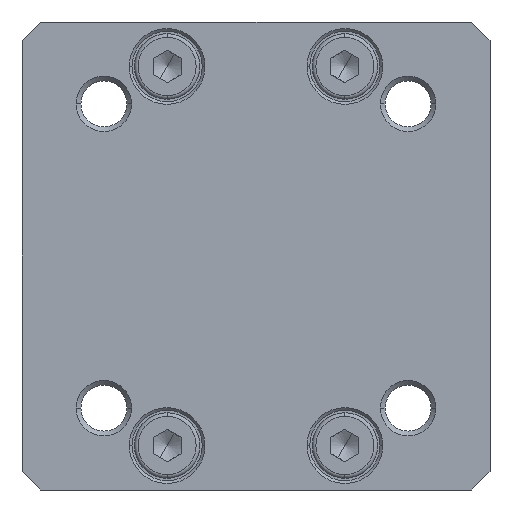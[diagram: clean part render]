
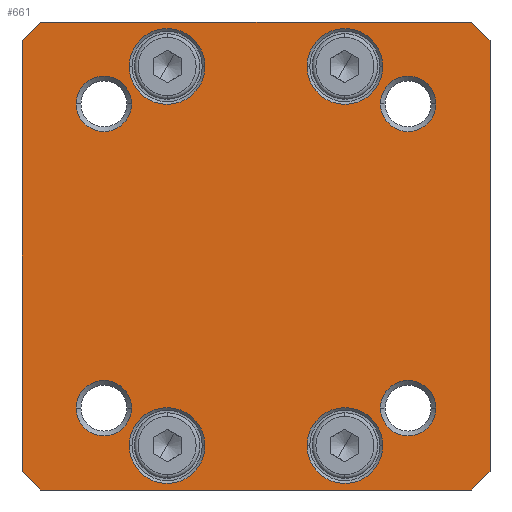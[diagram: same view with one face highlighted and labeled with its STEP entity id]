
A CAD part, front view. The second image highlights one B-rep face of the part: STEP entity #661.
In plain terms, the highlighted planar face has unit normal (0, -1, 0).
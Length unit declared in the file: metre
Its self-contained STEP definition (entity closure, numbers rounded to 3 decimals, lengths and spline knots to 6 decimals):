
#661=ADVANCED_FACE('',(#1272,#1273,#1274,#1275,#1276,#1277,#1278,#1279,#1280),#1281,.F.);
#1272=FACE_OUTER_BOUND('',#2039,.T.);
#1273=FACE_BOUND('',#2040,.T.);
#1274=FACE_BOUND('',#2041,.T.);
#1275=FACE_BOUND('',#2042,.T.);
#1276=FACE_BOUND('',#2043,.T.);
#1277=FACE_BOUND('',#2044,.T.);
#1278=FACE_BOUND('',#2045,.T.);
#1279=FACE_BOUND('',#2046,.T.);
#1280=FACE_BOUND('',#2047,.T.);
#1281=PLANE('',#2048);
#2039=EDGE_LOOP('',(#4085,#4086,#4087,#4088,#4089,#4090,#4091,#4092));
#2040=EDGE_LOOP('',(#4093,#4094));
#2041=EDGE_LOOP('',(#4095,#4096));
#2042=EDGE_LOOP('',(#4097,#4098));
#2043=EDGE_LOOP('',(#4099,#4100));
#2044=EDGE_LOOP('',(#4101,#4102));
#2045=EDGE_LOOP('',(#4103,#4104));
#2046=EDGE_LOOP('',(#4105,#4106));
#2047=EDGE_LOOP('',(#4107,#4108));
#2048=AXIS2_PLACEMENT_3D('',#4109,#4110,#4111);
#4085=ORIENTED_EDGE('',*,*,#5647,.F.);
#4086=ORIENTED_EDGE('',*,*,#5648,.F.);
#4087=ORIENTED_EDGE('',*,*,#5649,.F.);
#4088=ORIENTED_EDGE('',*,*,#5650,.F.);
#4089=ORIENTED_EDGE('',*,*,#5651,.F.);
#4090=ORIENTED_EDGE('',*,*,#5652,.F.);
#4091=ORIENTED_EDGE('',*,*,#5653,.F.);
#4092=ORIENTED_EDGE('',*,*,#5654,.F.);
#4093=ORIENTED_EDGE('',*,*,#5655,.F.);
#4094=ORIENTED_EDGE('',*,*,#5497,.F.);
#4095=ORIENTED_EDGE('',*,*,#5656,.F.);
#4096=ORIENTED_EDGE('',*,*,#5489,.F.);
#4097=ORIENTED_EDGE('',*,*,#5657,.F.);
#4098=ORIENTED_EDGE('',*,*,#5477,.F.);
#4099=ORIENTED_EDGE('',*,*,#5658,.F.);
#4100=ORIENTED_EDGE('',*,*,#5461,.F.);
#4101=ORIENTED_EDGE('',*,*,#5659,.F.);
#4102=ORIENTED_EDGE('',*,*,#5469,.F.);
#4103=ORIENTED_EDGE('',*,*,#5660,.F.);
#4104=ORIENTED_EDGE('',*,*,#5485,.F.);
#4105=ORIENTED_EDGE('',*,*,#5661,.F.);
#4106=ORIENTED_EDGE('',*,*,#5493,.F.);
#4107=ORIENTED_EDGE('',*,*,#5662,.F.);
#4108=ORIENTED_EDGE('',*,*,#5501,.F.);
#4109=CARTESIAN_POINT('',(0.,-0.0075,0.));
#4110=DIRECTION('',(-0.0,1.0,0.0));
#4111=DIRECTION('',(1.0,0.0,0.0));
#5461=EDGE_CURVE('',#6678,#6680,#6681,.T.);
#5469=EDGE_CURVE('',#6692,#6694,#6695,.T.);
#5477=EDGE_CURVE('',#6706,#6708,#6709,.T.);
#5485=EDGE_CURVE('',#6720,#6722,#6723,.T.);
#5489=EDGE_CURVE('',#6726,#6729,#6730,.T.);
#5493=EDGE_CURVE('',#6734,#6737,#6738,.T.);
#5497=EDGE_CURVE('',#6742,#6745,#6746,.T.);
#5501=EDGE_CURVE('',#6750,#6753,#6754,.T.);
#5647=EDGE_CURVE('',#7015,#7016,#7017,.T.);
#5648=EDGE_CURVE('',#7018,#7015,#7019,.T.);
#5649=EDGE_CURVE('',#7020,#7018,#7021,.T.);
#5650=EDGE_CURVE('',#7022,#7020,#7023,.T.);
#5651=EDGE_CURVE('',#7024,#7022,#7025,.T.);
#5652=EDGE_CURVE('',#7026,#7024,#7027,.T.);
#5653=EDGE_CURVE('',#7028,#7026,#7029,.T.);
#5654=EDGE_CURVE('',#7016,#7028,#7030,.T.);
#5655=EDGE_CURVE('',#6745,#6742,#7031,.T.);
#5656=EDGE_CURVE('',#6729,#6726,#7032,.T.);
#5657=EDGE_CURVE('',#6708,#6706,#7033,.T.);
#5658=EDGE_CURVE('',#6680,#6678,#7034,.T.);
#5659=EDGE_CURVE('',#6694,#6692,#7035,.T.);
#5660=EDGE_CURVE('',#6722,#6720,#7036,.T.);
#5661=EDGE_CURVE('',#6737,#6734,#7037,.T.);
#5662=EDGE_CURVE('',#6753,#6750,#7038,.T.);
#6678=VERTEX_POINT('',#8738);
#6680=VERTEX_POINT('',#8741);
#6681=CIRCLE('',#8742,0.00405);
#6692=VERTEX_POINT('',#8756);
#6694=VERTEX_POINT('',#8759);
#6695=CIRCLE('',#8760,0.00405);
#6706=VERTEX_POINT('',#8774);
#6708=VERTEX_POINT('',#8777);
#6709=CIRCLE('',#8778,0.00405);
#6720=VERTEX_POINT('',#8792);
#6722=VERTEX_POINT('',#8795);
#6723=CIRCLE('',#8796,0.00405);
#6726=VERTEX_POINT('',#8800);
#6729=VERTEX_POINT('',#8804);
#6730=CIRCLE('',#8805,0.002959);
#6734=VERTEX_POINT('',#8810);
#6737=VERTEX_POINT('',#8814);
#6738=CIRCLE('',#8815,0.002959);
#6742=VERTEX_POINT('',#8820);
#6745=VERTEX_POINT('',#8824);
#6746=CIRCLE('',#8825,0.002959);
#6750=VERTEX_POINT('',#8830);
#6753=VERTEX_POINT('',#8834);
#6754=CIRCLE('',#8835,0.002959);
#7015=VERTEX_POINT('',#9422);
#7016=VERTEX_POINT('',#9423);
#7017=LINE('',#9424,#9425);
#7018=VERTEX_POINT('',#9426);
#7019=LINE('',#9427,#9428);
#7020=VERTEX_POINT('',#9429);
#7021=LINE('',#9430,#9431);
#7022=VERTEX_POINT('',#9432);
#7023=LINE('',#9433,#9434);
#7024=VERTEX_POINT('',#9435);
#7025=LINE('',#9436,#9437);
#7026=VERTEX_POINT('',#9438);
#7027=LINE('',#9439,#9440);
#7028=VERTEX_POINT('',#9441);
#7029=LINE('',#9442,#9443);
#7030=LINE('',#9444,#9445);
#7031=CIRCLE('',#9446,0.002959);
#7032=CIRCLE('',#9447,0.002959);
#7033=CIRCLE('',#9448,0.00405);
#7034=CIRCLE('',#9449,0.00405);
#7035=CIRCLE('',#9450,0.00405);
#7036=CIRCLE('',#9451,0.00405);
#7037=CIRCLE('',#9452,0.002959);
#7038=CIRCLE('',#9453,0.002959);
#8738=CARTESIAN_POINT('',(-0.01355,-0.0075,0.02025));
#8741=CARTESIAN_POINT('',(-0.00545,-0.0075,0.02025));
#8742=AXIS2_PLACEMENT_3D('',#10762,#10763,#10764);
#8756=CARTESIAN_POINT('',(0.00545,-0.0075,0.02025));
#8759=CARTESIAN_POINT('',(0.01355,-0.0075,0.02025));
#8760=AXIS2_PLACEMENT_3D('',#10778,#10779,#10780);
#8774=CARTESIAN_POINT('',(0.00545,-0.0075,-0.02025));
#8777=CARTESIAN_POINT('',(0.01355,-0.0075,-0.02025));
#8778=AXIS2_PLACEMENT_3D('',#10794,#10795,#10796);
#8792=CARTESIAN_POINT('',(-0.01355,-0.0075,-0.02025));
#8795=CARTESIAN_POINT('',(-0.00545,-0.0075,-0.02025));
#8796=AXIS2_PLACEMENT_3D('',#10810,#10811,#10812);
#8800=CARTESIAN_POINT('',(0.013292,-0.0075,-0.01625));
#8804=CARTESIAN_POINT('',(0.019209,-0.0075,-0.01625));
#8805=AXIS2_PLACEMENT_3D('',#10818,#10819,#10820);
#8810=CARTESIAN_POINT('',(-0.019209,-0.0075,-0.01625));
#8814=CARTESIAN_POINT('',(-0.013292,-0.0075,-0.01625));
#8815=AXIS2_PLACEMENT_3D('',#10826,#10827,#10828);
#8820=CARTESIAN_POINT('',(-0.019209,-0.0075,0.01625));
#8824=CARTESIAN_POINT('',(-0.013292,-0.0075,0.01625));
#8825=AXIS2_PLACEMENT_3D('',#10834,#10835,#10836);
#8830=CARTESIAN_POINT('',(0.013292,-0.0075,0.01625));
#8834=CARTESIAN_POINT('',(0.019209,-0.0075,0.01625));
#8835=AXIS2_PLACEMENT_3D('',#10842,#10843,#10844);
#9422=CARTESIAN_POINT('',(-0.023,-0.0075,0.025));
#9423=CARTESIAN_POINT('',(0.023,-0.0075,0.025));
#9424=CARTESIAN_POINT('',(-0.023,-0.0075,0.025));
#9425=VECTOR('',#11081,0.046);
#9426=CARTESIAN_POINT('',(-0.025,-0.0075,0.023));
#9427=CARTESIAN_POINT('',(-0.025,-0.0075,0.023));
#9428=VECTOR('',#11082,0.002828);
#9429=CARTESIAN_POINT('',(-0.025,-0.0075,-0.023));
#9430=CARTESIAN_POINT('',(-0.025,-0.0075,-0.023));
#9431=VECTOR('',#11083,0.046);
#9432=CARTESIAN_POINT('',(-0.023,-0.0075,-0.025));
#9433=CARTESIAN_POINT('',(-0.023,-0.0075,-0.025));
#9434=VECTOR('',#11084,0.002828);
#9435=CARTESIAN_POINT('',(0.023,-0.0075,-0.025));
#9436=CARTESIAN_POINT('',(0.023,-0.0075,-0.025));
#9437=VECTOR('',#11085,0.046);
#9438=CARTESIAN_POINT('',(0.025,-0.0075,-0.023));
#9439=CARTESIAN_POINT('',(0.025,-0.0075,-0.023));
#9440=VECTOR('',#11086,0.002828);
#9441=CARTESIAN_POINT('',(0.025,-0.0075,0.023));
#9442=CARTESIAN_POINT('',(0.025,-0.0075,0.023));
#9443=VECTOR('',#11087,0.046);
#9444=CARTESIAN_POINT('',(0.023,-0.0075,0.025));
#9445=VECTOR('',#11088,0.002828);
#9446=AXIS2_PLACEMENT_3D('',#11089,#11090,#11091);
#9447=AXIS2_PLACEMENT_3D('',#11092,#11093,#11094);
#9448=AXIS2_PLACEMENT_3D('',#11095,#11096,#11097);
#9449=AXIS2_PLACEMENT_3D('',#11098,#11099,#11100);
#9450=AXIS2_PLACEMENT_3D('',#11101,#11102,#11103);
#9451=AXIS2_PLACEMENT_3D('',#11104,#11105,#11106);
#9452=AXIS2_PLACEMENT_3D('',#11107,#11108,#11109);
#9453=AXIS2_PLACEMENT_3D('',#11110,#11111,#11112);
#10762=CARTESIAN_POINT('',(-0.0095,-0.0075,0.02025));
#10763=DIRECTION('',(0.0,-1.0,0.0));
#10764=DIRECTION('',(-1.0,0.0,0.0));
#10778=CARTESIAN_POINT('',(0.0095,-0.0075,0.02025));
#10779=DIRECTION('',(0.0,-1.0,0.0));
#10780=DIRECTION('',(-1.0,0.0,0.0));
#10794=CARTESIAN_POINT('',(0.0095,-0.0075,-0.02025));
#10795=DIRECTION('',(0.0,-1.0,0.0));
#10796=DIRECTION('',(-1.0,0.0,0.0));
#10810=CARTESIAN_POINT('',(-0.0095,-0.0075,-0.02025));
#10811=DIRECTION('',(0.0,-1.0,0.0));
#10812=DIRECTION('',(-1.0,0.0,0.0));
#10818=CARTESIAN_POINT('',(0.01625,-0.0075,-0.01625));
#10819=DIRECTION('',(0.0,-1.0,0.0));
#10820=DIRECTION('',(-1.0,0.0,0.0));
#10826=CARTESIAN_POINT('',(-0.01625,-0.0075,-0.01625));
#10827=DIRECTION('',(0.0,-1.0,0.0));
#10828=DIRECTION('',(-1.0,0.0,0.0));
#10834=CARTESIAN_POINT('',(-0.01625,-0.0075,0.01625));
#10835=DIRECTION('',(0.0,-1.0,0.0));
#10836=DIRECTION('',(-1.0,0.0,0.0));
#10842=CARTESIAN_POINT('',(0.01625,-0.0075,0.01625));
#10843=DIRECTION('',(0.0,-1.0,0.0));
#10844=DIRECTION('',(-1.0,0.0,0.0));
#11081=DIRECTION('',(1.0,0.0,0.0));
#11082=DIRECTION('',(0.707,0.0,0.707));
#11083=DIRECTION('',(0.0,0.0,1.0));
#11084=DIRECTION('',(-0.707,0.0,0.707));
#11085=DIRECTION('',(-1.0,0.0,0.0));
#11086=DIRECTION('',(-0.707,0.0,-0.707));
#11087=DIRECTION('',(0.0,0.0,-1.0));
#11088=DIRECTION('',(0.707,0.0,-0.707));
#11089=CARTESIAN_POINT('',(-0.01625,-0.0075,0.01625));
#11090=DIRECTION('',(0.0,-1.0,0.0));
#11091=DIRECTION('',(-1.0,0.0,0.0));
#11092=CARTESIAN_POINT('',(0.01625,-0.0075,-0.01625));
#11093=DIRECTION('',(0.0,-1.0,0.0));
#11094=DIRECTION('',(-1.0,0.0,0.0));
#11095=CARTESIAN_POINT('',(0.0095,-0.0075,-0.02025));
#11096=DIRECTION('',(0.0,-1.0,0.0));
#11097=DIRECTION('',(-1.0,0.0,0.0));
#11098=CARTESIAN_POINT('',(-0.0095,-0.0075,0.02025));
#11099=DIRECTION('',(0.0,-1.0,0.0));
#11100=DIRECTION('',(-1.0,0.0,0.0));
#11101=CARTESIAN_POINT('',(0.0095,-0.0075,0.02025));
#11102=DIRECTION('',(0.0,-1.0,0.0));
#11103=DIRECTION('',(-1.0,0.0,0.0));
#11104=CARTESIAN_POINT('',(-0.0095,-0.0075,-0.02025));
#11105=DIRECTION('',(0.0,-1.0,0.0));
#11106=DIRECTION('',(-1.0,0.0,0.0));
#11107=CARTESIAN_POINT('',(-0.01625,-0.0075,-0.01625));
#11108=DIRECTION('',(0.0,-1.0,0.0));
#11109=DIRECTION('',(-1.0,0.0,0.0));
#11110=CARTESIAN_POINT('',(0.01625,-0.0075,0.01625));
#11111=DIRECTION('',(0.0,-1.0,0.0));
#11112=DIRECTION('',(-1.0,0.0,0.0));
